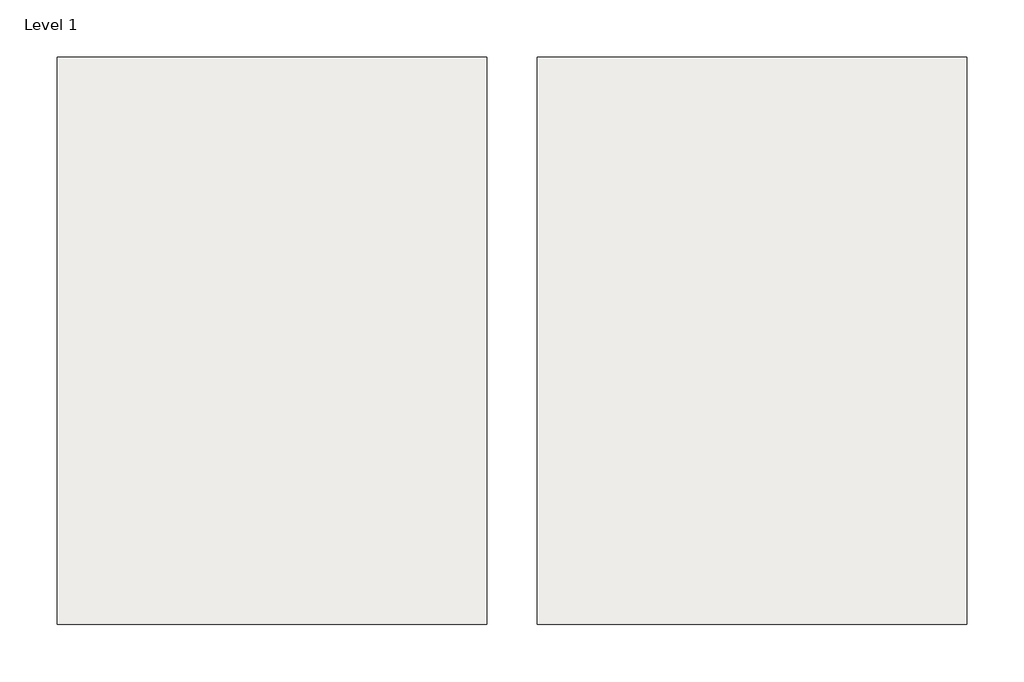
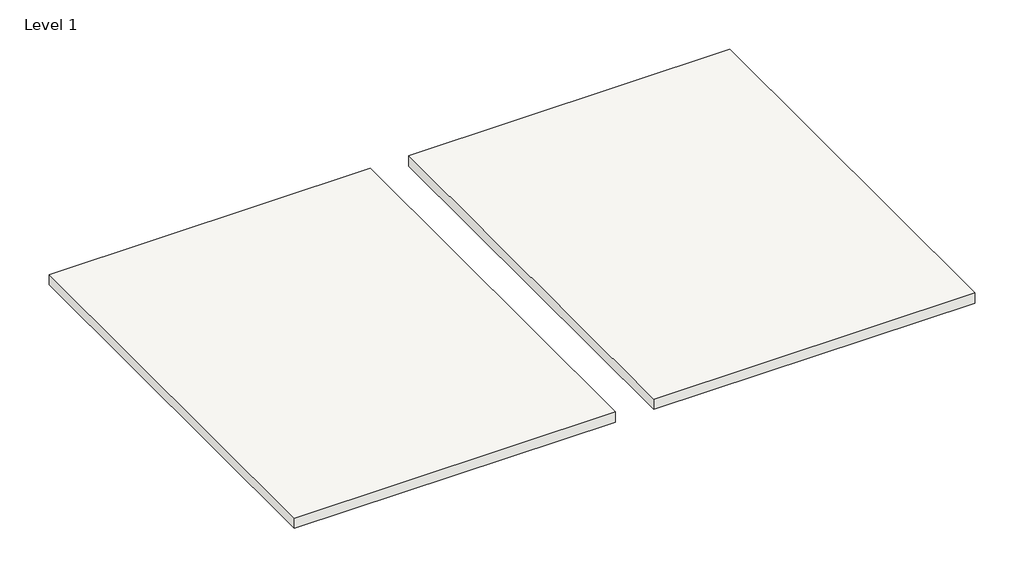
# One storey: 2 slabs.
"""IFC4 building model written with IfcOpenShell, lengths in millimetres."""

from ifc_helpers import new_model, si_unit, frame, origin, place, context, project, spatial, polyline, outline, extrude, element, save

model = new_model("IFC4")

# Units and contexts
model_context = context("Model", 3, world=origin())
ifc_project = project(units=[si_unit("LENGTHUNIT", "METRE", prefix="MILLI")], contexts=[model_context])

# Site, building, storey
site = spatial("IfcSite", under=ifc_project)
building = spatial("IfcBuilding", under=site)
storey = spatial("IfcBuildingStorey", under=building, Name="Level 1", Elevation=0.0)

# Slabs
placement = place(None, origin())
element("IfcSlab", 1, ObjectType="Edgewood Debris Trap Roll - 1/2\" Thick Black", at=placement, inside=storey, context=model_context, shape_type="SweptSolid", body=[
    extrude(outline(polyline([(1033.4664589, 3051.040399), (1033.4664589, 2555.740399), (658.8164589, 2555.740399), (658.8164589, 3051.040399), (1033.4664589, 3051.040399)])), frame((0.0, 0.0, -12.7), z_axis=(0.0, 0.0, 1.0), x_axis=(1.0, 0.0, 0.0)), (0.0, 0.0, 1.0), 12.7),
])
element("IfcSlab", 2, ObjectType="Edgewood Debris Trap Roll - 1/2\" Thick Grey", at=placement, inside=storey, context=model_context, shape_type="SweptSolid", body=[
    extrude(outline(polyline([(1452.5664589, 3051.040399), (1452.5664589, 2555.740399), (1077.9164589, 2555.740399), (1077.9164589, 3051.040399), (1452.5664589, 3051.040399)])), frame((0.0, 0.0, -12.7), z_axis=(0.0, 0.0, 1.0), x_axis=(1.0, 0.0, 0.0)), (0.0, 0.0, 1.0), 12.7),
])

save(model, "model.ifc")
